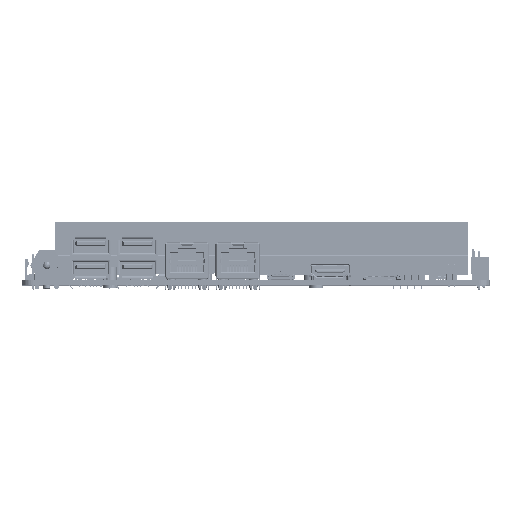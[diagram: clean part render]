
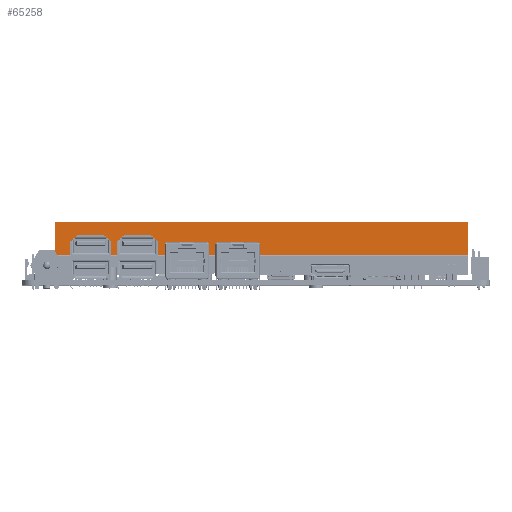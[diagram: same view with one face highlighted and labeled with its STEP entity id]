
A CAD part, top view. The second image highlights one B-rep face of the part: STEP entity #65258.
In plain terms, the highlighted planar face has unit normal (0, 0.005, 1) as drawn and (0, -0.005, -1) by its records, which use the part's own axes.
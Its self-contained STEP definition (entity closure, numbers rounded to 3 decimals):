
#50625=PLANE('',#359417);
#65258=ADVANCED_FACE('',(#83977),#50625,.F.);
#83977=FACE_OUTER_BOUND('',#100149,.T.);
#100149=EDGE_LOOP('',(#164747,#164748,#164749,#164750));
#164747=ORIENTED_EDGE('',*,*,#256366,.T.);
#164748=ORIENTED_EDGE('',*,*,#256367,.F.);
#164749=ORIENTED_EDGE('',*,*,#256363,.F.);
#164750=ORIENTED_EDGE('',*,*,#256368,.T.);
#218466=VERTEX_POINT('',#506992);
#218467=VERTEX_POINT('',#506993);
#218468=VERTEX_POINT('',#506998);
#218469=VERTEX_POINT('',#506999);
#256363=EDGE_CURVE('',#218466,#218467,#295400,.T.);
#256366=EDGE_CURVE('',#218468,#218469,#295403,.T.);
#256367=EDGE_CURVE('',#218467,#218469,#295404,.T.);
#256368=EDGE_CURVE('',#218466,#218468,#295405,.T.);
#295400=LINE('',#506991,#331193);
#295403=LINE('',#506997,#331196);
#295404=LINE('',#507000,#331197);
#295405=LINE('',#507001,#331198);
#331193=VECTOR('',#414705,1.);
#331196=VECTOR('',#414710,1.);
#331197=VECTOR('',#414711,1.);
#331198=VECTOR('',#414712,1.);
#359417=AXIS2_PLACEMENT_3D('',#507002,#414713,#414714);
#414705=DIRECTION('',(1.,0.,0.));
#414710=DIRECTION('',(1.,0.,0.));
#414711=DIRECTION('',(0.,1.,-0.005));
#414712=DIRECTION('',(0.,1.,-0.005));
#414713=DIRECTION('',(0.,0.005,1.));
#414714=DIRECTION('',(0.,1.,-0.005));
#506991=CARTESIAN_POINT('',(13.,-21.,-96.7));
#506992=CARTESIAN_POINT('',(13.,-21.,-96.7));
#506993=CARTESIAN_POINT('',(163.,-21.,-96.7));
#506997=CARTESIAN_POINT('',(13.,-8.998,-96.76));
#506998=CARTESIAN_POINT('',(13.,-8.998,-96.76));
#506999=CARTESIAN_POINT('',(163.,-8.998,-96.76));
#507000=CARTESIAN_POINT('',(163.,-21.,-96.7));
#507001=CARTESIAN_POINT('',(13.,-21.,-96.7));
#507002=CARTESIAN_POINT('',(2.,-21.,-96.7));
